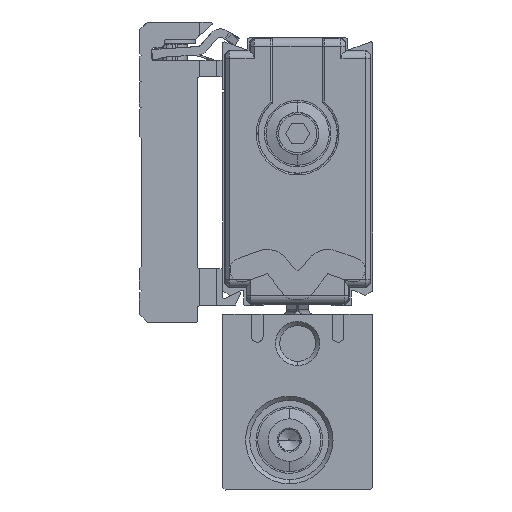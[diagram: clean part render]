
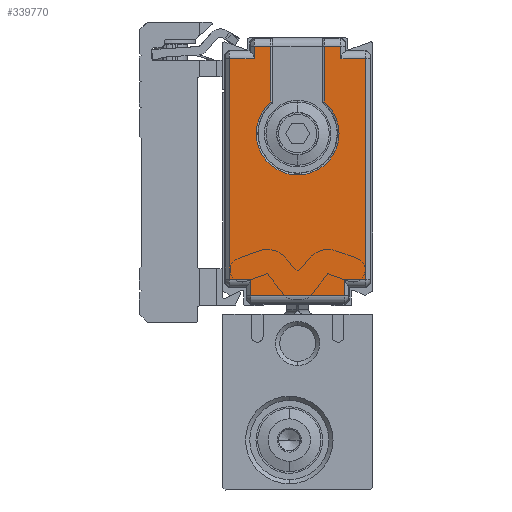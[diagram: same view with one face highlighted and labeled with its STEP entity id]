
A CAD part, left-side view. The second image highlights one B-rep face of the part: STEP entity #339770.
In plain terms, the highlighted planar face has unit normal (-1, 0, 0) as drawn and (0, 0, -1) by its records, which use the part's own axes.
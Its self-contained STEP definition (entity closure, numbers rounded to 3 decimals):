
#337680=CARTESIAN_POINT('',(29.865,18.802,-494.5));
#337690=VERTEX_POINT('',#337680);
#338140=CARTESIAN_POINT('',(3.435,18.802,-494.5));
#338150=VERTEX_POINT('',#338140);
#338200=CARTESIAN_POINT('',(3.435,18.802,-494.5));
#338210=CARTESIAN_POINT('',(7.84,18.802,-494.5));
#338220=CARTESIAN_POINT('',(12.245,18.802,-494.5));
#338230=CARTESIAN_POINT('',(21.055,18.802,-494.5));
#338240=CARTESIAN_POINT('',(25.46,18.802,-494.5));
#338250=CARTESIAN_POINT('',(29.865,18.802,-494.5));
#338260=B_SPLINE_CURVE_WITH_KNOTS('',3,(#338200,#338210,#338220,#338230,
#338240,#338250),.UNSPECIFIED.,.F.,.F.,(4,2,4),(24.334,
37.549,50.764),.UNSPECIFIED.);
#338270=EDGE_CURVE('',#338150,#337690,#338260,.T.);
#338390=CARTESIAN_POINT('',(16.65,27.,-494.5));
#338400=DIRECTION('',(0.,0.,1.));
#338410=DIRECTION('',(0.,1.,0.));
#338420=AXIS2_PLACEMENT_3D('',#338390,#338400,#338410);
#338430=PLANE('',#338420);
#338440=CARTESIAN_POINT('',(20.9,27.,-494.5));
#338450=DIRECTION('',(0.,0.,-1.));
#338460=DIRECTION('',(0.,1.,0.));
#338470=AXIS2_PLACEMENT_3D('',#338440,#338450,#338460);
#338480=CIRCLE('',#338470,4.974);
#338490=CARTESIAN_POINT('',(24.688,23.776,-494.5));
#338500=VERTEX_POINT('',#338490);
#338510=CARTESIAN_POINT('',(24.688,30.224,-494.5));
#338520=VERTEX_POINT('',#338510);
#338530=EDGE_CURVE('',#338500,#338520,#338480,.T.);
#338540=ORIENTED_EDGE('',*,*,#338530,.F.);
#338550=CARTESIAN_POINT('',(0.15,30.224,-494.5));
#338560=DIRECTION('',(1.,0.,0.));
#338570=VECTOR('',#338560,1.);
#338580=LINE('',#338550,#338570);
#338590=CARTESIAN_POINT('',(31.365,30.224,-494.5));
#338600=VERTEX_POINT('',#338590);
#338610=EDGE_CURVE('',#338520,#338600,#338580,.T.);
#338620=ORIENTED_EDGE('',*,*,#338610,.F.);
#338630=CARTESIAN_POINT('',(31.365,35.75,-494.5));
#338640=DIRECTION('',(0.,-1.,0.));
#338650=VECTOR('',#338640,1.);
#338660=LINE('',#338630,#338650);
#338670=CARTESIAN_POINT('',(31.365,32.198,-494.5));
#338680=VERTEX_POINT('',#338670);
#338690=EDGE_CURVE('',#338680,#338600,#338660,.T.);
#338700=ORIENTED_EDGE('',*,*,#338690,.T.);
#338710=CARTESIAN_POINT('',(29.365,32.198,-494.5));
#338720=CARTESIAN_POINT('',(29.782,32.198,-494.5));
#338730=CARTESIAN_POINT('',(30.198,32.198,-494.5));
#338740=CARTESIAN_POINT('',(30.865,32.198,-494.5));
#338750=CARTESIAN_POINT('',(31.115,32.198,-494.5));
#338760=CARTESIAN_POINT('',(31.365,32.198,-494.5));
#338770=B_SPLINE_CURVE_WITH_KNOTS('',3,(#338710,#338720,#338730,#338740,
#338750,#338760),.UNSPECIFIED.,.F.,.F.,(4,2,4),(37.587,
38.837,39.587),.UNSPECIFIED.);
#338780=CARTESIAN_POINT('',(29.865,32.198,-494.5));
#338790=VERTEX_POINT('',#338780);
#338800=EDGE_CURVE('',#338790,#338680,#338770,.T.);
#338810=ORIENTED_EDGE('',*,*,#338800,.T.);
#338820=CARTESIAN_POINT('',(29.865,35.75,-494.5));
#338830=DIRECTION('',(0.,1.,0.));
#338840=VECTOR('',#338830,1.);
#338850=LINE('',#338820,#338840);
#338860=CARTESIAN_POINT('',(29.865,35.198,-494.5));
#338870=VERTEX_POINT('',#338860);
#338880=EDGE_CURVE('',#338790,#338870,#338850,.T.);
#338890=ORIENTED_EDGE('',*,*,#338880,.F.);
#338900=CARTESIAN_POINT('',(3.435,35.198,-494.5));
#338910=CARTESIAN_POINT('',(7.84,35.198,-494.5));
#338920=CARTESIAN_POINT('',(12.245,35.198,-494.5));
#338930=CARTESIAN_POINT('',(21.055,35.198,-494.5));
#338940=CARTESIAN_POINT('',(25.46,35.198,-494.5));
#338950=CARTESIAN_POINT('',(29.865,35.198,-494.5));
#338960=B_SPLINE_CURVE_WITH_KNOTS('',3,(#338900,#338910,#338920,#338930,
#338940,#338950),.UNSPECIFIED.,.F.,.F.,(4,2,4),(24.308,
37.523,50.738),.UNSPECIFIED.);
#338970=CARTESIAN_POINT('',(3.435,35.198,-494.5));
#338980=VERTEX_POINT('',#338970);
#338990=EDGE_CURVE('',#338980,#338870,#338960,.T.);
#339000=ORIENTED_EDGE('',*,*,#338990,.T.);
#339010=CARTESIAN_POINT('',(3.435,35.75,-494.5));
#339020=DIRECTION('',(0.,1.,0.));
#339030=VECTOR('',#339020,1.);
#339040=LINE('',#339010,#339030);
#339050=CARTESIAN_POINT('',(3.435,32.648,-494.5));
#339060=VERTEX_POINT('',#339050);
#339070=EDGE_CURVE('',#339060,#338980,#339040,.T.);
#339080=ORIENTED_EDGE('',*,*,#339070,.T.);
#339090=CARTESIAN_POINT('',(3.935,32.648,-494.5));
#339100=CARTESIAN_POINT('',(3.435,32.648,-494.5));
#339110=CARTESIAN_POINT('',(2.935,32.648,-494.5));
#339120=CARTESIAN_POINT('',(2.102,32.648,-494.5));
#339130=CARTESIAN_POINT('',(1.768,32.648,-494.5));
#339140=CARTESIAN_POINT('',(1.435,32.648,-494.5));
#339150=B_SPLINE_CURVE_WITH_KNOTS('',3,(#339090,#339100,#339110,#339120,
#339130,#339140),.UNSPECIFIED.,.F.,.F.,(4,2,4),(37.084,
38.584,39.584),.UNSPECIFIED.);
#339160=CARTESIAN_POINT('',(1.435,32.648,-494.5));
#339170=VERTEX_POINT('',#339160);
#339180=EDGE_CURVE('',#339060,#339170,#339150,.T.);
#339190=ORIENTED_EDGE('',*,*,#339180,.F.);
#339200=CARTESIAN_POINT('',(1.435,35.75,-494.5));
#339210=DIRECTION('',(0.,1.,0.));
#339220=VECTOR('',#339210,1.);
#339230=LINE('',#339200,#339220);
#339240=CARTESIAN_POINT('',(1.435,21.352,-494.5));
#339250=VERTEX_POINT('',#339240);
#339260=EDGE_CURVE('',#339250,#339170,#339230,.T.);
#339270=ORIENTED_EDGE('',*,*,#339260,.T.);
#339280=CARTESIAN_POINT('',(3.935,21.352,-494.5));
#339290=CARTESIAN_POINT('',(3.435,21.352,-494.5));
#339300=CARTESIAN_POINT('',(2.935,21.352,-494.5));
#339310=CARTESIAN_POINT('',(2.102,21.352,-494.5));
#339320=CARTESIAN_POINT('',(1.768,21.352,-494.5));
#339330=CARTESIAN_POINT('',(1.435,21.352,-494.5));
#339340=B_SPLINE_CURVE_WITH_KNOTS('',3,(#339280,#339290,#339300,#339310,
#339320,#339330),.UNSPECIFIED.,.F.,.F.,(4,2,4),(37.084,
38.584,39.584),.UNSPECIFIED.);
#339350=CARTESIAN_POINT('',(3.435,21.352,-494.5));
#339360=VERTEX_POINT('',#339350);
#339370=EDGE_CURVE('',#339360,#339250,#339340,.T.);
#339380=ORIENTED_EDGE('',*,*,#339370,.T.);
#339390=CARTESIAN_POINT('',(3.435,35.75,-494.5));
#339400=DIRECTION('',(0.,-1.,0.));
#339410=VECTOR('',#339400,1.);
#339420=LINE('',#339390,#339410);
#339430=EDGE_CURVE('',#339360,#338150,#339420,.T.);
#339440=ORIENTED_EDGE('',*,*,#339430,.F.);
#339450=ORIENTED_EDGE('',*,*,#338270,.F.);
#339460=CARTESIAN_POINT('',(29.865,35.75,-494.5));
#339470=DIRECTION('',(0.,-1.,0.));
#339480=VECTOR('',#339470,1.);
#339490=LINE('',#339460,#339480);
#339500=CARTESIAN_POINT('',(29.865,21.802,-494.5));
#339510=VERTEX_POINT('',#339500);
#339520=EDGE_CURVE('',#339510,#337690,#339490,.T.);
#339530=ORIENTED_EDGE('',*,*,#339520,.T.);
#339540=CARTESIAN_POINT('',(29.365,21.802,-494.5));
#339550=CARTESIAN_POINT('',(29.782,21.802,-494.5));
#339560=CARTESIAN_POINT('',(30.198,21.802,-494.5));
#339570=CARTESIAN_POINT('',(30.865,21.802,-494.5));
#339580=CARTESIAN_POINT('',(31.115,21.802,-494.5));
#339590=CARTESIAN_POINT('',(31.365,21.802,-494.5));
#339600=B_SPLINE_CURVE_WITH_KNOTS('',3,(#339540,#339550,#339560,#339570,
#339580,#339590),.UNSPECIFIED.,.F.,.F.,(4,2,4),(37.587,
38.837,39.587),.UNSPECIFIED.);
#339610=CARTESIAN_POINT('',(31.365,21.802,-494.5));
#339620=VERTEX_POINT('',#339610);
#339630=EDGE_CURVE('',#339510,#339620,#339600,.T.);
#339640=ORIENTED_EDGE('',*,*,#339630,.F.);
#339650=CARTESIAN_POINT('',(31.365,23.776,-494.5));
#339660=VERTEX_POINT('',#339650);
#339670=EDGE_CURVE('',#339660,#339620,#338660,.T.);
#339680=ORIENTED_EDGE('',*,*,#339670,.T.);
#339690=CARTESIAN_POINT('',(0.15,23.776,-494.5));
#339700=DIRECTION('',(-1.,0.,0.));
#339710=VECTOR('',#339700,1.);
#339720=LINE('',#339690,#339710);
#339730=EDGE_CURVE('',#339660,#338500,#339720,.T.);
#339740=ORIENTED_EDGE('',*,*,#339730,.F.);
#339750=EDGE_LOOP('',(#339740,#339680,#339640,#339530,#339450,#339440,
#339380,#339270,#339190,#339080,#339000,#338890,#338810,#338700,#338620,
#338540));
#339760=FACE_OUTER_BOUND('',#339750,.T.);
#339770=ADVANCED_FACE('',(#339760),#338430,.F.);
